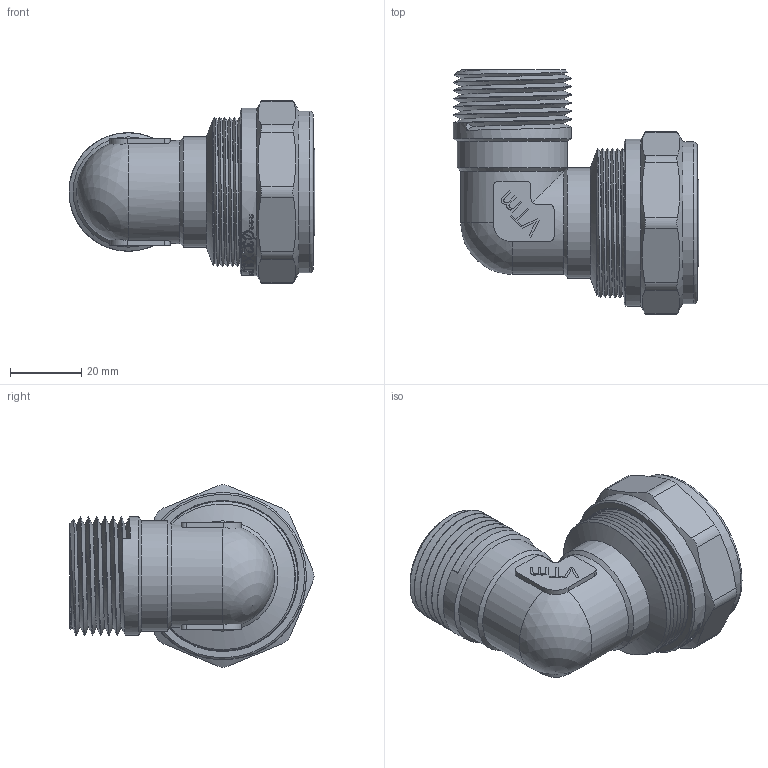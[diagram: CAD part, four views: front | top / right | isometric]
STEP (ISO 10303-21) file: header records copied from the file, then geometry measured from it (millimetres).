
FILE_DESCRIPTION(/* description */ (''),/* implementation_level */ '2;1');
FILE_NAME(/* name */ 'F:\Артём\00000\Работа удаленка\Обжимные фитинги\VTm.353.N.003206.stp',/* time_stamp */ '2020-08-10T13:19:28+03:00',/* author */ ('almis'),/* organization */ (''),/* preprocessor_version */ 'ST-DEVELOPER v18',/* originating_system */ 'Autodesk Inventor 2020',/* authorisation */ '');
FILE_SCHEMA (('AUTOMOTIVE_DESIGN { 1 0 10303 214 3 1 1 }'));
Length unit declared in the file: millimetre
Products named in the file (1): VTm.301.N.003206
Bounding box: 69.15 x 68.65 x 51.3 mm (x, y, z)
Volume: 50497.9 mm3; surface area: 31176.9 mm2
Topology: 1 solids, 1 shells, 788 faces, 2235 edges, 1502 vertices
Faces by surface type: bspline 395, plane 240, cylinder 107, torus 24, cone 20, sphere 2
Full cylindrical faces by diameter (mm): 20 x1, 23.4 x2, 24.5 x1, 25.75 x5, 28.7 x6, 29 x2, 30.538 x4, 31 x2, 31.683 x5, 32.2 x1, 32.7 x1, 33.3 x6, 35.5 x1, 40.38 x7, 40.5 x1, 45.5 x1, 47 x1
Entity records: 34959 total; most frequent: CARTESIAN_POINT 17064, ORIENTED_EDGE 4466, DIRECTION 2437, EDGE_CURVE 2233, VERTEX_POINT 1502, LINE 1005, VECTOR 1005, B_SPLINE_CURVE_WITH_KNOTS 890
